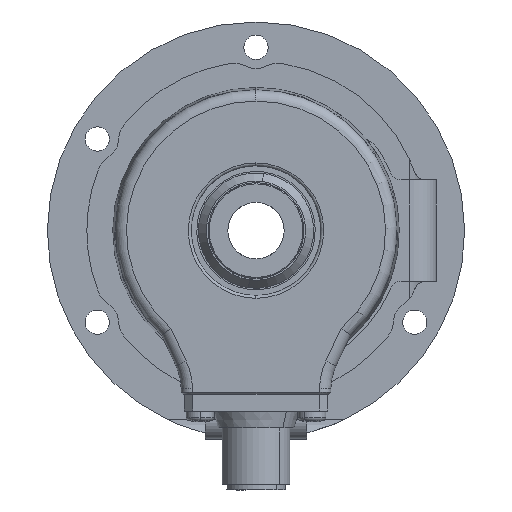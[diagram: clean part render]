
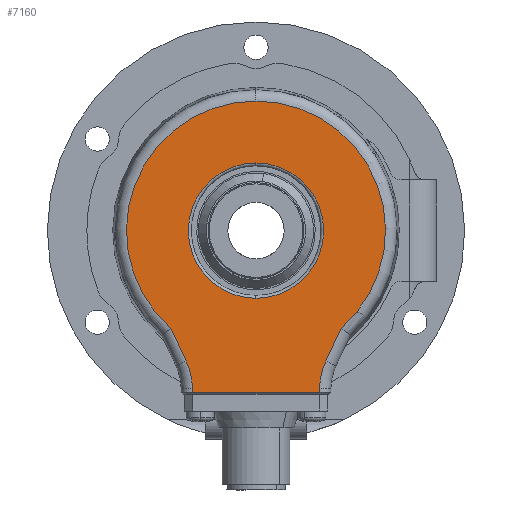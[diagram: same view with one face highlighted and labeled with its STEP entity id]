
A CAD part, left-side view. The second image highlights one B-rep face of the part: STEP entity #7160.
In plain terms, the highlighted planar face has unit normal (-1, 0, 0).
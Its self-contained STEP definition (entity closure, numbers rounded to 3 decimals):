
#6759 = VERTEX_POINT ( 'NONE', #13219 ) ;
#6794 = EDGE_CURVE ( 'NONE', #6759, #7028, #13379, .T. ) ;
#6847 = EDGE_CURVE ( 'NONE', #7412, #6759, #13566, .T. ) ;
#7028 = VERTEX_POINT ( 'NONE', #14127 ) ;
#7050 = EDGE_LOOP ( 'NONE', ( #7098, #7164 ) ) ;
#7059 = ORIENTED_EDGE ( 'NONE', *, *, #7588, .T. ) ;
#7060 = ORIENTED_EDGE ( 'NONE', *, *, #7315, .T. ) ;
#7061 = ORIENTED_EDGE ( 'NONE', *, *, #7369, .T. ) ;
#7072 = ORIENTED_EDGE ( 'NONE', *, *, #7099, .T. ) ;
#7098 = ORIENTED_EDGE ( 'NONE', *, *, #7256, .T. ) ;
#7099 = EDGE_CURVE ( 'NONE', #7028, #7245, #14301, .T. ) ;
#7100 = ORIENTED_EDGE ( 'NONE', *, *, #7267, .T. ) ;
#7101 = ORIENTED_EDGE ( 'NONE', *, *, #7348, .T. ) ;
#7159 = EDGE_CURVE ( 'NONE', #7422, #7251, #14457, .T. ) ;
#7160 = ADVANCED_FACE ( 'NONE', ( #14507, #14506 ), #14490, .F. ) ;
#7164 = ORIENTED_EDGE ( 'NONE', *, *, #7159, .T. ) ;
#7165 = EDGE_LOOP ( 'NONE', ( #7169, #7171, #7072, #7100, #7059, #7060, #7061, #7166, #7101 ) ) ;
#7166 = ORIENTED_EDGE ( 'NONE', *, *, #7363, .T. ) ;
#7169 = ORIENTED_EDGE ( 'NONE', *, *, #6847, .T. ) ;
#7171 = ORIENTED_EDGE ( 'NONE', *, *, #6794, .T. ) ;
#7245 = VERTEX_POINT ( 'NONE', #14738 ) ;
#7251 = VERTEX_POINT ( 'NONE', #14731 ) ;
#7256 = EDGE_CURVE ( 'NONE', #7251, #7422, #14724, .T. ) ;
#7267 = EDGE_CURVE ( 'NONE', #7245, #7308, #14743, .T. ) ;
#7308 = VERTEX_POINT ( 'NONE', #14930 ) ;
#7315 = EDGE_CURVE ( 'NONE', #7586, #7370, #14924, .T. ) ;
#7348 = EDGE_CURVE ( 'NONE', #7471, #7412, #15074, .T. ) ;
#7363 = EDGE_CURVE ( 'NONE', #7371, #7471, #15136, .T. ) ;
#7369 = EDGE_CURVE ( 'NONE', #7370, #7371, #15152, .T. ) ;
#7370 = VERTEX_POINT ( 'NONE', #15143 ) ;
#7371 = VERTEX_POINT ( 'NONE', #15142 ) ;
#7412 = VERTEX_POINT ( 'NONE', #15295 ) ;
#7422 = VERTEX_POINT ( 'NONE', #15345 ) ;
#7471 = VERTEX_POINT ( 'NONE', #15486 ) ;
#7586 = VERTEX_POINT ( 'NONE', #15855 ) ;
#7588 = EDGE_CURVE ( 'NONE', #7308, #7586, #15854, .T. ) ;
#13219 = CARTESIAN_POINT ( 'NONE',  ( -21., 11.255, -28.695 ) ) ;
#13370 = DIRECTION ( 'NONE',  ( 0., -1., 0. ) ) ;
#13371 = VECTOR ( 'NONE', #13370, 1000. ) ;
#13378 = CARTESIAN_POINT ( 'NONE',  ( -21., -11.25, -28.695 ) ) ;
#13379 = LINE ( 'NONE', #13378, #13371 ) ;
#13563 = DIRECTION ( 'NONE',  ( 0., -0.017, -1. ) ) ;
#13564 = VECTOR ( 'NONE', #13563, 1000. ) ;
#13565 = CARTESIAN_POINT ( 'NONE',  ( -21., 11.752, -0.205 ) ) ;
#13566 = LINE ( 'NONE', #13565, #13564 ) ;
#14127 = CARTESIAN_POINT ( 'NONE',  ( -21., -11.255, -28.695 ) ) ;
#14298 = DIRECTION ( 'NONE',  ( 0., -0.017, 1. ) ) ;
#14299 = VECTOR ( 'NONE', #14298, 1000. ) ;
#14300 = CARTESIAN_POINT ( 'NONE',  ( -21., -11.752, -0.205 ) ) ;
#14301 = LINE ( 'NONE', #14300, #14299 ) ;
#14453 = DIRECTION ( 'NONE',  ( 0., 0., 1. ) ) ;
#14454 = DIRECTION ( 'NONE',  ( 1., 0., 0. ) ) ;
#14455 = CARTESIAN_POINT ( 'NONE',  ( -21., 0., 0. ) ) ;
#14456 = AXIS2_PLACEMENT_3D ( 'NONE', #14455, #14454, #14453 ) ;
#14457 = CIRCLE ( 'NONE', #14456, 12. ) ;
#14485 = DIRECTION ( 'NONE',  ( 0., 0., 1. ) ) ;
#14486 = DIRECTION ( 'NONE',  ( 1., 0., 0. ) ) ;
#14487 = CARTESIAN_POINT ( 'NONE',  ( -21., 0., 0. ) ) ;
#14488 = AXIS2_PLACEMENT_3D ( 'NONE', #14487, #14486, #14485 ) ;
#14490 = PLANE ( 'NONE',  #14488 ) ;
#14506 = FACE_OUTER_BOUND ( 'NONE', #7165, .T. ) ;
#14507 = FACE_BOUND ( 'NONE', #7050, .T. ) ;
#14720 = DIRECTION ( 'NONE',  ( 0., 0., 1. ) ) ;
#14721 = DIRECTION ( 'NONE',  ( 1., 0., 0. ) ) ;
#14722 = CARTESIAN_POINT ( 'NONE',  ( -21., 0., 0. ) ) ;
#14723 = AXIS2_PLACEMENT_3D ( 'NONE', #14722, #14721, #14720 ) ;
#14724 = CIRCLE ( 'NONE', #14723, 12. ) ;
#14731 = CARTESIAN_POINT ( 'NONE',  ( -21., 0., 12. ) ) ;
#14738 = CARTESIAN_POINT ( 'NONE',  ( -21., -11.268, -27.974 ) ) ;
#14739 = DIRECTION ( 'NONE',  ( 0., 0., 1. ) ) ;
#14740 = DIRECTION ( 'NONE',  ( 1., 0., 0. ) ) ;
#14741 = CARTESIAN_POINT ( 'NONE',  ( -21., -23.266, -28.183 ) ) ;
#14742 = AXIS2_PLACEMENT_3D ( 'NONE', #14741, #14740, #14739 ) ;
#14743 = CIRCLE ( 'NONE', #14742, 12. ) ;
#14904 = DIRECTION ( 'NONE',  ( 0., 0., 1. ) ) ;
#14905 = DIRECTION ( 'NONE',  ( -1., 0., 0. ) ) ;
#14922 = CARTESIAN_POINT ( 'NONE',  ( -21., 0., 0. ) ) ;
#14923 = AXIS2_PLACEMENT_3D ( 'NONE', #14922, #14905, #14904 ) ;
#14924 = CIRCLE ( 'NONE', #14923, 22.972 ) ;
#14930 = CARTESIAN_POINT ( 'NONE',  ( -21., -12.39, -23.112 ) ) ;
#15070 = DIRECTION ( 'NONE',  ( 0., 0., 1. ) ) ;
#15071 = DIRECTION ( 'NONE',  ( 1., 0., 0. ) ) ;
#15072 = CARTESIAN_POINT ( 'NONE',  ( -21., 23.266, -28.183 ) ) ;
#15073 = AXIS2_PLACEMENT_3D ( 'NONE', #15072, #15071, #15070 ) ;
#15074 = CIRCLE ( 'NONE', #15073, 12. ) ;
#15133 = DIRECTION ( 'NONE',  ( 0., -0.423, -0.906 ) ) ;
#15134 = VECTOR ( 'NONE', #15133, 1000. ) ;
#15135 = CARTESIAN_POINT ( 'NONE',  ( -21., 12.39, -23.112 ) ) ;
#15136 = LINE ( 'NONE', #15135, #15134 ) ;
#15142 = CARTESIAN_POINT ( 'NONE',  ( -21., 15.091, -17.32 ) ) ;
#15143 = CARTESIAN_POINT ( 'NONE',  ( -21., 0., 22.972 ) ) ;
#15144 = DIRECTION ( 'NONE',  ( 0., 0., 1. ) ) ;
#15145 = DIRECTION ( 'NONE',  ( -1., 0., 0. ) ) ;
#15146 = CARTESIAN_POINT ( 'NONE',  ( -21., 0., 0. ) ) ;
#15147 = AXIS2_PLACEMENT_3D ( 'NONE', #15146, #15145, #15144 ) ;
#15152 = CIRCLE ( 'NONE', #15147, 22.972 ) ;
#15295 = CARTESIAN_POINT ( 'NONE',  ( -21., 11.268, -27.974 ) ) ;
#15345 = CARTESIAN_POINT ( 'NONE',  ( -21., 0., -12. ) ) ;
#15486 = CARTESIAN_POINT ( 'NONE',  ( -21., 12.39, -23.112 ) ) ;
#15851 = DIRECTION ( 'NONE',  ( 0., -0.423, 0.906 ) ) ;
#15852 = VECTOR ( 'NONE', #15851, 1000. ) ;
#15853 = CARTESIAN_POINT ( 'NONE',  ( -21., -14.953, -17.615 ) ) ;
#15854 = LINE ( 'NONE', #15853, #15852 ) ;
#15855 = CARTESIAN_POINT ( 'NONE',  ( -21., -15.091, -17.32 ) ) ;
